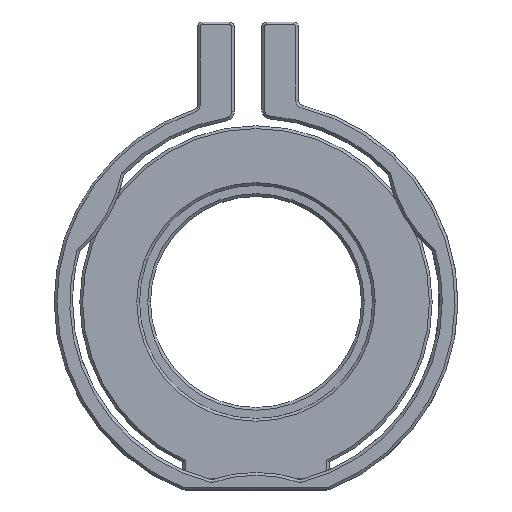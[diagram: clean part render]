
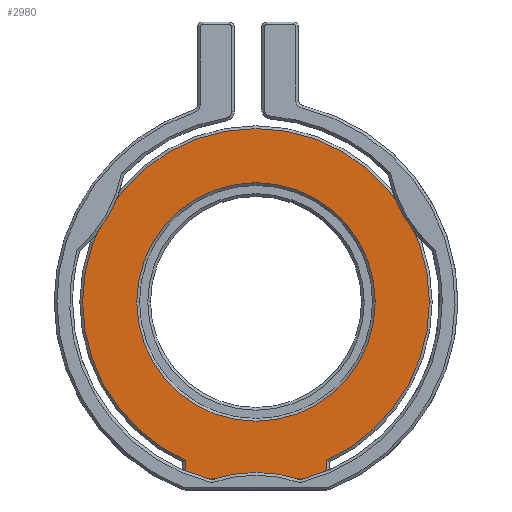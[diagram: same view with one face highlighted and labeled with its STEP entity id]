
A CAD part, top view. The second image highlights one B-rep face of the part: STEP entity #2980.
In plain terms, the highlighted planar face has unit normal (0, 0, 1).
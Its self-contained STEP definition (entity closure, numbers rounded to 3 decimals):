
#63 = ORIENTED_EDGE ( 'NONE', *, *, #2631, .T. ) ;
#71 = LINE ( 'NONE', #350, #908 ) ;
#86 = DIRECTION ( 'NONE',  ( 1., 0., 0. ) ) ;
#99 = DIRECTION ( 'NONE',  ( 0., 0., -1. ) ) ;
#163 = VERTEX_POINT ( 'NONE', #1630 ) ;
#167 = DIRECTION ( 'NONE',  ( 0., 0., -1. ) ) ;
#170 = CARTESIAN_POINT ( 'NONE',  ( -7.7, -17.26, -1. ) ) ;
#172 = CARTESIAN_POINT ( 'NONE',  ( 0., 0., -1. ) ) ;
#202 = ORIENTED_EDGE ( 'NONE', *, *, #3154, .T. ) ;
#246 = EDGE_CURVE ( 'NONE', #163, #2009, #71, .T. ) ;
#252 = DIRECTION ( 'NONE',  ( 0., 0., -1. ) ) ;
#287 = DIRECTION ( 'NONE',  ( -1., 0., 0. ) ) ;
#320 = ORIENTED_EDGE ( 'NONE', *, *, #3089, .T. ) ;
#350 = CARTESIAN_POINT ( 'NONE',  ( -8., -19.2, -1. ) ) ;
#371 = VERTEX_POINT ( 'NONE', #3339 ) ;
#380 = DIRECTION ( 'NONE',  ( 0., 0., 1. ) ) ;
#383 = AXIS2_PLACEMENT_3D ( 'NONE', #1799, #252, #2862 ) ;
#466 = CIRCLE ( 'NONE', #914, 18.9 ) ;
#550 = CARTESIAN_POINT ( 'NONE',  ( 18.9, 0., -1. ) ) ;
#598 = EDGE_LOOP ( 'NONE', ( #1338, #3468, #202, #1034, #639, #63 ) ) ;
#634 = DIRECTION ( 'NONE',  ( -1., 0., 0. ) ) ;
#639 = ORIENTED_EDGE ( 'NONE', *, *, #2889, .T. ) ;
#641 = EDGE_LOOP ( 'NONE', ( #320, #2057 ) ) ;
#683 = DIRECTION ( 'NONE',  ( 0., 0., 1. ) ) ;
#816 = CARTESIAN_POINT ( 'NONE',  ( 7.7, 0., -1. ) ) ;
#899 = EDGE_CURVE ( 'NONE', #3048, #1392, #466, .T. ) ;
#908 = VECTOR ( 'NONE', #86, 1000. ) ;
#914 = AXIS2_PLACEMENT_3D ( 'NONE', #172, #683, #634 ) ;
#929 = LINE ( 'NONE', #816, #3368 ) ;
#1034 = ORIENTED_EDGE ( 'NONE', *, *, #899, .T. ) ;
#1116 = CARTESIAN_POINT ( 'NONE',  ( -7.7, 0., -1. ) ) ;
#1271 = CARTESIAN_POINT ( 'NONE',  ( -18.9, 0., -1. ) ) ;
#1279 = AXIS2_PLACEMENT_3D ( 'NONE', #3351, #167, #3371 ) ;
#1338 = ORIENTED_EDGE ( 'NONE', *, *, #246, .T. ) ;
#1392 = VERTEX_POINT ( 'NONE', #1271 ) ;
#1588 = FACE_BOUND ( 'NONE', #641, .T. ) ;
#1630 = CARTESIAN_POINT ( 'NONE',  ( -7.7, -19.2, -1. ) ) ;
#1780 = DIRECTION ( 'NONE',  ( -1., 0., 0. ) ) ;
#1799 = CARTESIAN_POINT ( 'NONE',  ( 0., 0., -1. ) ) ;
#1845 = AXIS2_PLACEMENT_3D ( 'NONE', #3385, #2047, #1780 ) ;
#1888 = DIRECTION ( 'NONE',  ( -1., 0., 0. ) ) ;
#2000 = CARTESIAN_POINT ( 'NONE',  ( 0., 0., -1. ) ) ;
#2009 = VERTEX_POINT ( 'NONE', #2166 ) ;
#2047 = DIRECTION ( 'NONE',  ( 0., 0., 1. ) ) ;
#2057 = ORIENTED_EDGE ( 'NONE', *, *, #2392, .T. ) ;
#2075 = VERTEX_POINT ( 'NONE', #3216 ) ;
#2166 = CARTESIAN_POINT ( 'NONE',  ( 7.7, -19.2, -1. ) ) ;
#2208 = LINE ( 'NONE', #1116, #2745 ) ;
#2240 = AXIS2_PLACEMENT_3D ( 'NONE', #2698, #380, #287 ) ;
#2318 = CARTESIAN_POINT ( 'NONE',  ( 13., 0., -1. ) ) ;
#2347 = CIRCLE ( 'NONE', #1279, 13. ) ;
#2383 = FACE_OUTER_BOUND ( 'NONE', #598, .T. ) ;
#2392 = EDGE_CURVE ( 'NONE', #2075, #3315, #2347, .T. ) ;
#2465 = CIRCLE ( 'NONE', #1845, 18.9 ) ;
#2546 = DIRECTION ( 'NONE',  ( 0., 1., 0. ) ) ;
#2631 = EDGE_CURVE ( 'NONE', #3187, #163, #2208, .T. ) ;
#2664 = PLANE ( 'NONE',  #383 ) ;
#2698 = CARTESIAN_POINT ( 'NONE',  ( 0., 0., -1. ) ) ;
#2745 = VECTOR ( 'NONE', #2766, 1000. ) ;
#2766 = DIRECTION ( 'NONE',  ( 0., -1., 0. ) ) ;
#2862 = DIRECTION ( 'NONE',  ( -1., 0., 0. ) ) ;
#2889 = EDGE_CURVE ( 'NONE', #1392, #3187, #2465, .T. ) ;
#2980 = ADVANCED_FACE ( 'NONE', ( #2383, #1588 ), #2664, .F. ) ;
#3027 = CIRCLE ( 'NONE', #2240, 18.9 ) ;
#3048 = VERTEX_POINT ( 'NONE', #550 ) ;
#3076 = EDGE_CURVE ( 'NONE', #2009, #371, #929, .T. ) ;
#3089 = EDGE_CURVE ( 'NONE', #3315, #2075, #3135, .T. ) ;
#3135 = CIRCLE ( 'NONE', #3484, 13. ) ;
#3154 = EDGE_CURVE ( 'NONE', #371, #3048, #3027, .T. ) ;
#3187 = VERTEX_POINT ( 'NONE', #170 ) ;
#3216 = CARTESIAN_POINT ( 'NONE',  ( -13., 0., -1. ) ) ;
#3315 = VERTEX_POINT ( 'NONE', #2318 ) ;
#3339 = CARTESIAN_POINT ( 'NONE',  ( 7.7, -17.26, -1. ) ) ;
#3351 = CARTESIAN_POINT ( 'NONE',  ( 0., 0., -1. ) ) ;
#3368 = VECTOR ( 'NONE', #2546, 1000. ) ;
#3371 = DIRECTION ( 'NONE',  ( -1., 0., 0. ) ) ;
#3385 = CARTESIAN_POINT ( 'NONE',  ( 0., 0., -1. ) ) ;
#3468 = ORIENTED_EDGE ( 'NONE', *, *, #3076, .T. ) ;
#3484 = AXIS2_PLACEMENT_3D ( 'NONE', #2000, #99, #1888 ) ;
